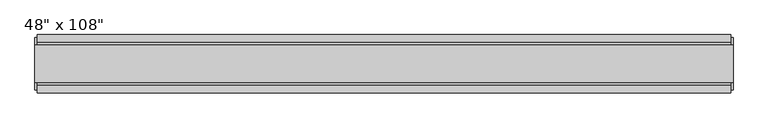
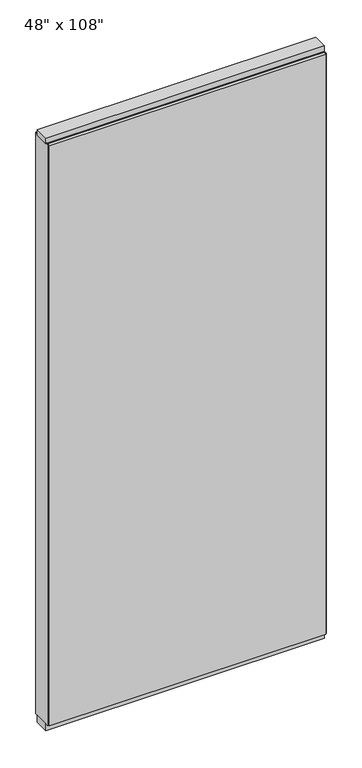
"""IFC4 building model written with IfcOpenShell, lengths in millimetres: furniture geometry."""

from ifc_helpers import new_model, si_unit, frame, origin, origin_with_axes, place, context, project, spatial, polyline, outline, extrude, source, transform, mapped, element, save


def furniture_3334d8ed(model_context):
    return source(origin(), model_context, "Body", "SweptSolid", [
        extrude(outline(polyline([(545.6264771, -46.2822784), (-665.6995229, -46.2822784), (-665.6995229, -33.5822784), (545.6264771, -33.5822784), (545.6264771, -46.2822784)])), frame((0.0, 0.0, 31.75), z_axis=(0.0, 0.0, 1.0), x_axis=(1.0, 0.0, 0.0)), (0.0, 0.0, 1.0), 2686.05),
        extrude(outline(polyline([(545.6264771, 55.3177216), (545.6264771, 42.6177216), (-665.6995229, 42.6177216), (-665.6995229, 55.3177216), (545.6264771, 55.3177216)])), frame((0.0, 0.0, 31.75), z_axis=(0.0, 0.0, 1.0), x_axis=(1.0, 0.0, 0.0)), (0.0, 0.0, 1.0), 2686.05),
        extrude(outline(polyline([(42.6177216, 2681.478), (37.6647216, 2681.478), (37.6647216, 2676.525), (-28.6292784, 2676.525), (-28.6292784, 2681.478), (-33.5822784, 2681.478), (-33.5822784, 2717.8), (42.6177216, 2717.8), (42.6177216, 2681.478)])), frame((-665.6995229, 0.0, 0.0), z_axis=(1.0, 0.0, 0.0), x_axis=(0.0, 1.0, 0.0)), (0.0, 0.0, 1.0), 1211.326),
        extrude(outline(polyline([(549.5634771, -27.9942784), (-669.6365229, -27.9942784), (-669.6365229, 37.0297216), (549.5634771, 37.0297216), (549.5634771, -27.9942784)])), origin_with_axes(), (0.0, 0.0, 1.0), 31.75),
        extrude(outline(polyline([(-669.6365229, 37.0297216), (549.5634771, 37.0297216), (549.5634771, -27.9942784), (-669.6365229, -27.9942784), (-669.6365229, 37.0297216)])), frame((0.0, 0.0, 2717.8), z_axis=(0.0, 0.0, 1.0), x_axis=(1.0, 0.0, 0.0)), (0.0, 0.0, 1.0), 25.4),
        extrude(outline(polyline([(549.5634771, 50.3647216), (549.5634771, -41.3292784), (545.6264771, -41.3292784), (545.6264771, 50.3647216), (549.5634771, 50.3647216)])), frame((0.0, 0.0, 31.75), z_axis=(0.0, 0.0, 1.0), x_axis=(1.0, 0.0, 0.0)), (0.0, 0.0, 1.0), 2686.05),
        extrude(outline(polyline([(-669.6365229, 50.3647216), (-665.6995229, 50.3647216), (-665.6995229, -41.3292784), (-669.6365229, -41.3292784), (-669.6365229, 50.3647216)])), frame((0.0, 0.0, 31.75), z_axis=(0.0, 0.0, 1.0), x_axis=(1.0, 0.0, 0.0)), (0.0, 0.0, 1.0), 2686.05),
    ])


if __name__ == "__main__":
    model = new_model("IFC4")
    model_context = context("Model", 3, world=origin())
    ifc_project = project(units=[si_unit("LENGTHUNIT", "METRE", prefix="MILLI")], contexts=[model_context])
    site = spatial("IfcSite", under=ifc_project)
    building = spatial("IfcBuilding", under=site)
    placement = place(None, origin())
    furniture_shape = furniture_3334d8ed(model_context)
    element("IfcFurniture", 1, ObjectType="Haworth_Enclose_Wall_Solid : 48\" x 108\"", at=placement, inside=building, context=model_context, shape_type="MappedRepresentation", body=[
        mapped(furniture_shape, transform((0.0, 0.0, 0.0), x_axis=(1.0, 0.0, 0.0), y_axis=(0.0, 1.0, 0.0), z_axis=(0.0, 0.0, 1.0))),
    ])
    save(model, "model.ifc")
